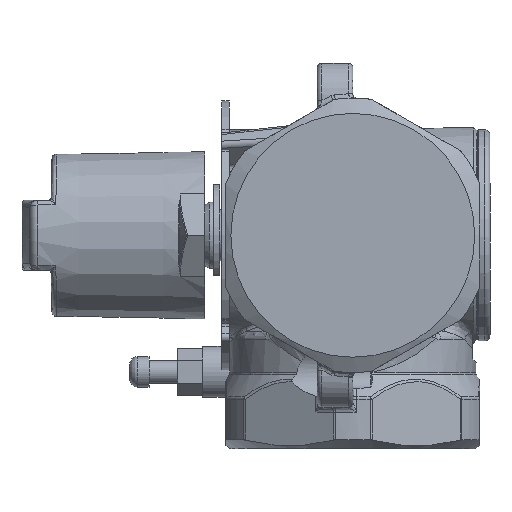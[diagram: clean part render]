
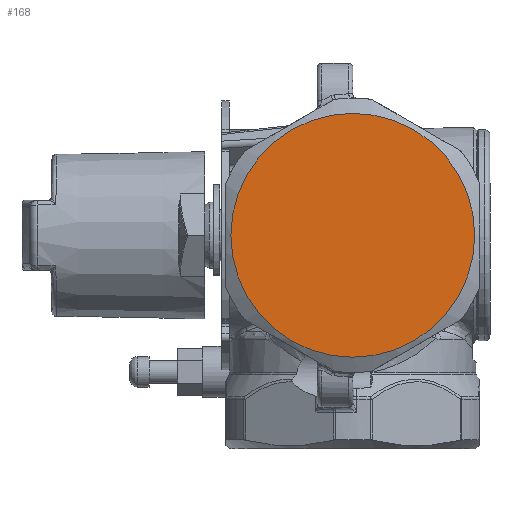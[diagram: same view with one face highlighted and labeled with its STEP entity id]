
A CAD part, left-side view. The second image highlights one B-rep face of the part: STEP entity #168.
In plain terms, the highlighted planar face has unit normal (-1, 0, 0).
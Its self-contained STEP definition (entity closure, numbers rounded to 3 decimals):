
#168=ADVANCED_FACE('',(#2182),#2184,.F.);
#2182=FACE_BOUND('',#2183,.T.);
#2183=EDGE_LOOP('',(#14589));
#2184=PLANE('',#2185);
#2185=AXIS2_PLACEMENT_3D('',#2186,#2187,#2188);
#2186=CARTESIAN_POINT('',(-42.,23.25,0.));
#2187=DIRECTION('',(1.,0.,0.));
#2188=DIRECTION('',(0.,0.,-1.));
#14589=ORIENTED_EDGE('',*,*,#18259,.T.);
#18259=EDGE_CURVE('',#20695,#20695,#20696,.T.);
#20695=VERTEX_POINT('',#33006);
#20696=CIRCLE('',#33007,24.);
#33006=CARTESIAN_POINT('',(-42.,-24.,0.));
#33007=AXIS2_PLACEMENT_3D('',#33008,#33009,#33010);
#33008=CARTESIAN_POINT('',(-42.,0.,0.));
#33009=DIRECTION('',(-1.,0.,0.));
#33010=DIRECTION('',(0.,-1.,0.));
